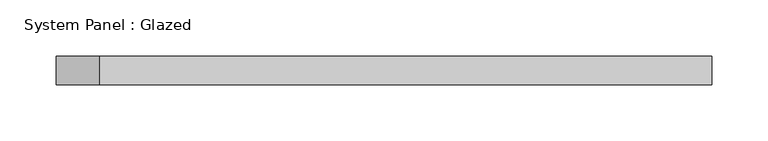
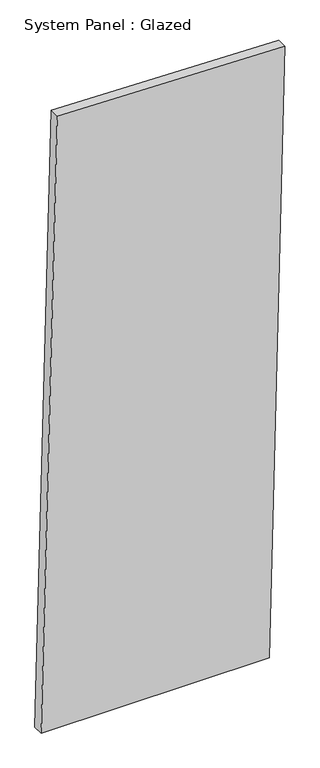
"""IFC4 building model written with IfcOpenShell, lengths in millimetres: plate geometry, System Panel : Glazed."""

from ifc_helpers import new_model, si_unit, frame, origin, place, context, project, spatial, polyline, outline, extrude, source, transform, mapped, element, save


def system_panel_glazed_13de8e61(model_context):
    return source(origin(), model_context, "Body", "SweptSolid", [
        extrude(outline(polyline([(0.0, -292.2659241), (0.0, 255.1907169), (1537.6192933, 292.2659241), (1551.0518659, -253.2934372), (0.0, -292.2659241)])), frame((0.0, -44.45, 0.0), z_axis=(0.0, 1.0, 0.0), x_axis=(0.0, 0.0, 1.0)), (0.0, 0.0, 1.0), 25.4),
    ])


if __name__ == "__main__":
    model = new_model("IFC4")
    model_context = context("Model", 3, world=origin())
    ifc_project = project(units=[si_unit("LENGTHUNIT", "METRE", prefix="MILLI")], contexts=[model_context])
    site = spatial("IfcSite", under=ifc_project)
    building = spatial("IfcBuilding", under=site)
    placement = place(None, origin())
    system_panel_glazed_shape = system_panel_glazed_13de8e61(model_context)
    element("IfcPlate", 1, ObjectType="System Panel : Glazed", at=placement, inside=building, context=model_context, shape_type="MappedRepresentation", body=[
        mapped(system_panel_glazed_shape, transform((0.0, 0.0, 0.0), x_axis=(1.0, 0.0, 0.0), y_axis=(0.0, 1.0, 0.0), z_axis=(0.0, 0.0, 1.0))),
    ])
    save(model, "model.ifc")
